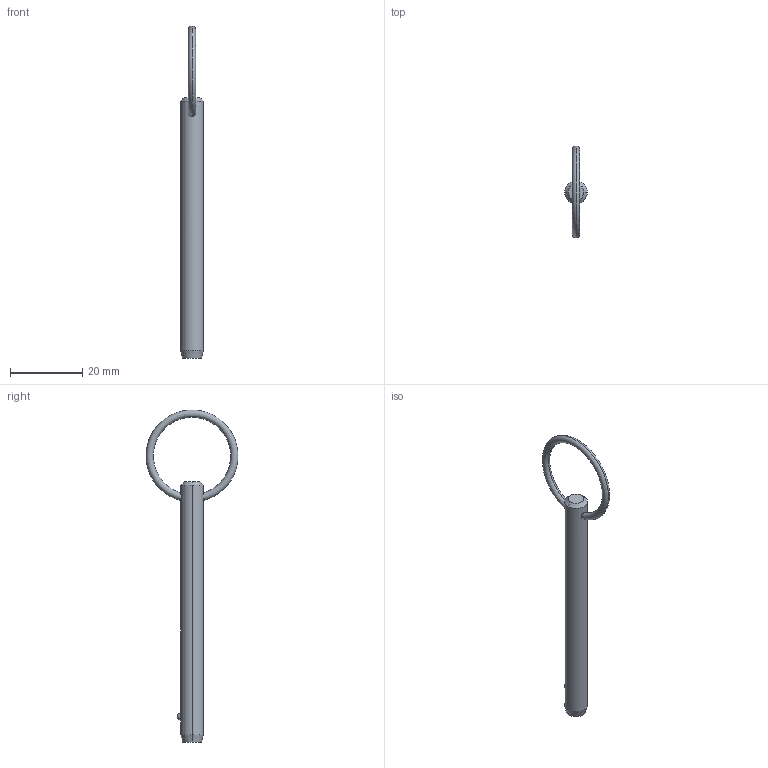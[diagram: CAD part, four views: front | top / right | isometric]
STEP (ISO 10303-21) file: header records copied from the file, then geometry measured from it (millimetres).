
FILE_DESCRIPTION (( 'STEP AP203' ), '1' );
FILE_NAME ('P1250.025-230.step', '2019-07-29T19:42:48', ( '' ), ( '' ), 'SwSTEP 2.0', 'SolidWorks 2017', '' );
FILE_SCHEMA (( 'CONFIG_CONTROL_DESIGN' ));
Length unit declared in the file: millimetre
Products named in the file (1): P1250.025-230
Bounding box: 6.35 x 25.38 x 91.72 mm (x, y, z)
Volume: 2470.7 mm3; surface area: 1891.7 mm2
Topology: 1 solids, 1 shells, 12 faces, 28 edges, 17 vertices
Faces by surface type: cone 4, torus 2, sphere 2, cylinder 2, plane 2
Entity records: 481 total; most frequent: CARTESIAN_POINT 148, DIRECTION 56, ORIENTED_EDGE 48, AXIS2_PLACEMENT_3D 25, EDGE_CURVE 24, VERTEX_POINT 15, EDGE_LOOP 15, ADVANCED_FACE 12
